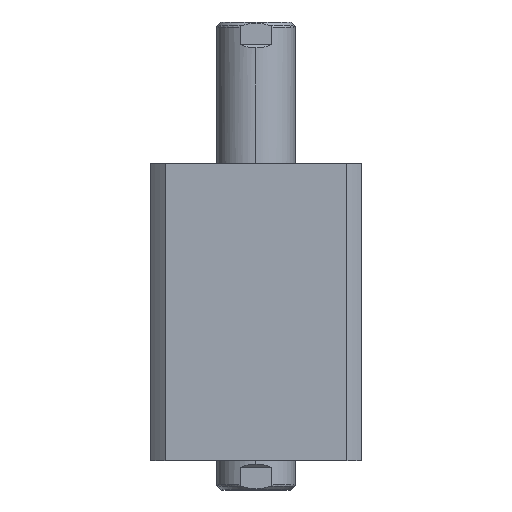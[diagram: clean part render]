
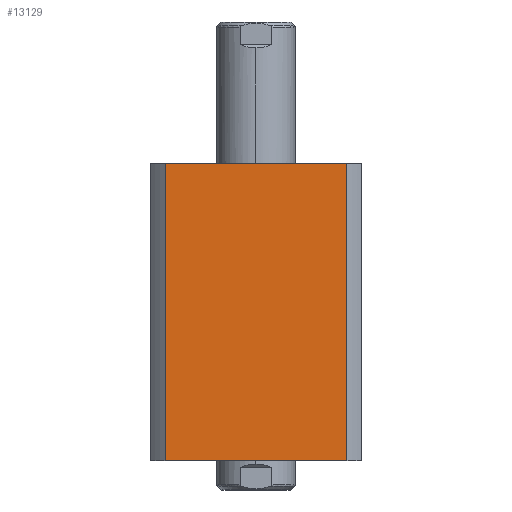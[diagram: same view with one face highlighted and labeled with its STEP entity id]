
A CAD part, left-side view. The second image highlights one B-rep face of the part: STEP entity #13129.
In plain terms, the highlighted planar face has unit normal (-1, 0, 0).
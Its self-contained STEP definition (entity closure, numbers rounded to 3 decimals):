
#915 = VERTEX_POINT ( 'NONE', #2425 ) ;
#1012 = LINE ( 'NONE', #10297, #16162 ) ;
#1457 = DIRECTION ( 'NONE',  ( 0., 1., 0. ) ) ;
#1469 = LINE ( 'NONE', #10020, #8598 ) ;
#1784 = CARTESIAN_POINT ( 'NONE',  ( -47., 40.435, 0. ) ) ;
#2425 = CARTESIAN_POINT ( 'NONE',  ( -47., 40.435, 132. ) ) ;
#3749 = VECTOR ( 'NONE', #4984, 1000. ) ;
#3838 = VERTEX_POINT ( 'NONE', #8168 ) ;
#4984 = DIRECTION ( 'NONE',  ( 0., -1., 0. ) ) ;
#5501 = VECTOR ( 'NONE', #15451, 1000. ) ;
#5920 = DIRECTION ( 'NONE',  ( 0., 0., 1. ) ) ;
#5929 = LINE ( 'NONE', #14037, #5501 ) ;
#6512 = ORIENTED_EDGE ( 'NONE', *, *, #7141, .T. ) ;
#7141 = EDGE_CURVE ( 'NONE', #7669, #3838, #7497, .T. ) ;
#7497 = LINE ( 'NONE', #13515, #3749 ) ;
#7669 = VERTEX_POINT ( 'NONE', #1784 ) ;
#8168 = CARTESIAN_POINT ( 'NONE',  ( -47., -40.435, 0. ) ) ;
#8240 = CARTESIAN_POINT ( 'NONE',  ( -47., -40.435, 132. ) ) ;
#8598 = VECTOR ( 'NONE', #10076, 1000. ) ;
#8793 = AXIS2_PLACEMENT_3D ( 'NONE', #15662, #10003, #1457 ) ;
#8856 = EDGE_LOOP ( 'NONE', ( #17409, #9867, #14102, #6512 ) ) ;
#9867 = ORIENTED_EDGE ( 'NONE', *, *, #16728, .F. ) ;
#10003 = DIRECTION ( 'NONE',  ( 1., 0., 0. ) ) ;
#10020 = CARTESIAN_POINT ( 'NONE',  ( -47., 47., 132. ) ) ;
#10036 = EDGE_CURVE ( 'NONE', #17589, #3838, #5929, .T. ) ;
#10076 = DIRECTION ( 'NONE',  ( 0., -1., 0. ) ) ;
#10297 = CARTESIAN_POINT ( 'NONE',  ( -47., 40.435, 600. ) ) ;
#11379 = PLANE ( 'NONE',  #8793 ) ;
#13129 = ADVANCED_FACE ( 'NONE', ( #14666 ), #11379, .F. ) ;
#13515 = CARTESIAN_POINT ( 'NONE',  ( -47., 47., 0. ) ) ;
#14037 = CARTESIAN_POINT ( 'NONE',  ( -47., -40.435, 600. ) ) ;
#14102 = ORIENTED_EDGE ( 'NONE', *, *, #18367, .F. ) ;
#14666 = FACE_OUTER_BOUND ( 'NONE', #8856, .T. ) ;
#15451 = DIRECTION ( 'NONE',  ( 0., 0., -1. ) ) ;
#15662 = CARTESIAN_POINT ( 'NONE',  ( -47., 47., 132. ) ) ;
#16162 = VECTOR ( 'NONE', #5920, 1000. ) ;
#16728 = EDGE_CURVE ( 'NONE', #915, #17589, #1469, .T. ) ;
#17409 = ORIENTED_EDGE ( 'NONE', *, *, #10036, .F. ) ;
#17589 = VERTEX_POINT ( 'NONE', #8240 ) ;
#18367 = EDGE_CURVE ( 'NONE', #7669, #915, #1012, .T. ) ;
